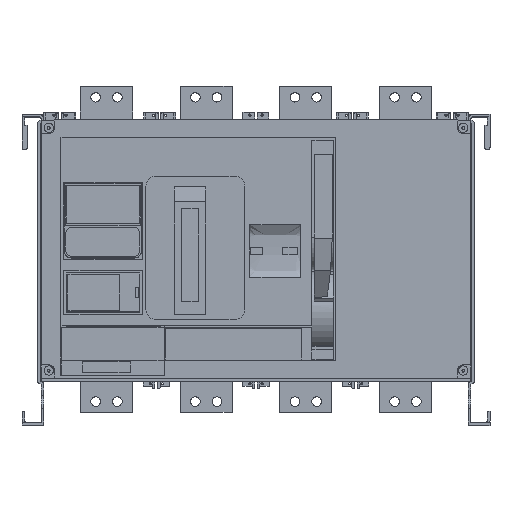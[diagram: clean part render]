
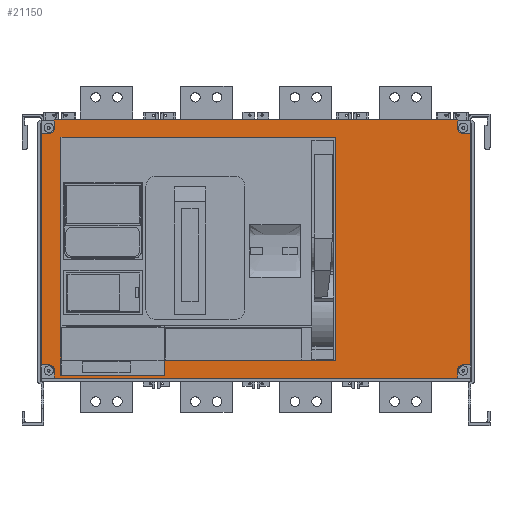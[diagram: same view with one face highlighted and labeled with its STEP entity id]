
A CAD part, top view. The second image highlights one B-rep face of the part: STEP entity #21150.
In plain terms, the highlighted planar face has unit normal (0, 0, 1).
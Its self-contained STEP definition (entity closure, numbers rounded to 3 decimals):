
#348=DIRECTION('',(0.,-1.,0.));
#349=VECTOR('',#348,267.);
#350=CARTESIAN_POINT('',(22.,336.5,356.));
#351=LINE('',#350,#349);
#404=DIRECTION('',(0.,1.,0.));
#405=VECTOR('',#404,267.);
#406=CARTESIAN_POINT('',(518.,69.5,356.));
#407=LINE('',#406,#405);
#436=DIRECTION('',(1.,0.,0.));
#437=VECTOR('',#436,465.);
#438=CARTESIAN_POINT('',(37.5,54.,356.));
#439=LINE('',#438,#437);
#483=DIRECTION('',(1.,0.,0.));
#484=VECTOR('',#483,9.);
#485=CARTESIAN_POINT('',(22.,69.5,356.));
#486=LINE('',#485,#484);
#491=CARTESIAN_POINT('',(31.,343.,356.));
#492=DIRECTION('',(0.,0.,1.));
#493=DIRECTION('',(0.,-1.,0.));
#494=AXIS2_PLACEMENT_3D('',#491,#492,#493);
#496=DIRECTION('',(0.,-1.,0.));
#497=VECTOR('',#496,9.);
#498=CARTESIAN_POINT('',(502.5,352.,356.));
#499=LINE('',#498,#497);
#500=CARTESIAN_POINT('',(509.,343.,356.));
#501=DIRECTION('',(0.,0.,1.));
#502=DIRECTION('',(-1.,0.,0.));
#503=AXIS2_PLACEMENT_3D('',#500,#501,#502);
#505=DIRECTION('',(-1.,0.,0.));
#506=VECTOR('',#505,9.);
#507=CARTESIAN_POINT('',(518.,69.5,356.));
#508=LINE('',#507,#506);
#509=CARTESIAN_POINT('',(509.,63.,356.));
#510=DIRECTION('',(0.,0.,1.));
#511=DIRECTION('',(0.,1.,0.));
#512=AXIS2_PLACEMENT_3D('',#509,#510,#511);
#514=DIRECTION('',(0.,1.,0.));
#515=VECTOR('',#514,9.);
#516=CARTESIAN_POINT('',(37.5,54.,356.));
#517=LINE('',#516,#515);
#518=CARTESIAN_POINT('',(31.,63.,356.));
#519=DIRECTION('',(0.,0.,1.));
#520=DIRECTION('',(1.,0.,0.));
#521=AXIS2_PLACEMENT_3D('',#518,#519,#520);
#523=DIRECTION('',(1.,0.,0.));
#524=VECTOR('',#523,9.);
#525=CARTESIAN_POINT('',(22.,336.5,356.));
#526=LINE('',#525,#524);
#527=DIRECTION('',(1.,0.,0.));
#528=VECTOR('',#527,197.024);
#529=CARTESIAN_POINT('',(164.727,74.209,356.));
#530=LINE('',#529,#528);
#531=DIRECTION('',(0.,1.,0.));
#532=VECTOR('',#531,40.54);
#533=CARTESIAN_POINT('',(361.751,74.209,356.));
#534=LINE('',#533,#532);
#535=DIRECTION('',(1.,0.,0.));
#536=VECTOR('',#535,0.209);
#537=CARTESIAN_POINT('',(361.751,114.75,356.));
#538=LINE('',#537,#536);
#539=DIRECTION('',(0.,1.,0.));
#540=VECTOR('',#539,217.25);
#541=CARTESIAN_POINT('',(361.96,114.75,356.));
#542=LINE('',#541,#540);
#543=DIRECTION('',(-1.,0.,0.));
#544=VECTOR('',#543,316.96);
#545=CARTESIAN_POINT('',(361.96,332.,356.));
#546=LINE('',#545,#544);
#547=DIRECTION('',(0.,-1.,0.));
#548=VECTOR('',#547,217.25);
#549=CARTESIAN_POINT('',(45.,332.,356.));
#550=LINE('',#549,#548);
#551=DIRECTION('',(0.,-1.,0.));
#552=VECTOR('',#551,57.24);
#553=CARTESIAN_POINT('',(45.,114.75,356.));
#554=LINE('',#553,#552);
#555=DIRECTION('',(1.,0.,0.));
#556=VECTOR('',#555,119.727);
#557=CARTESIAN_POINT('',(45.,57.51,356.));
#558=LINE('',#557,#556);
#559=DIRECTION('',(0.,1.,0.));
#560=VECTOR('',#559,16.7);
#561=CARTESIAN_POINT('',(164.727,57.51,356.));
#562=LINE('',#561,#560);
#598=DIRECTION('',(-1.,0.,0.));
#599=VECTOR('',#598,465.);
#600=CARTESIAN_POINT('',(502.5,352.,356.));
#601=LINE('',#600,#599);
#629=DIRECTION('',(-1.,0.,0.));
#630=VECTOR('',#629,9.);
#631=CARTESIAN_POINT('',(518.,336.5,356.));
#632=LINE('',#631,#630);
#955=DIRECTION('',(0.,-1.,0.));
#956=VECTOR('',#955,9.);
#957=CARTESIAN_POINT('',(37.5,352.,356.));
#958=LINE('',#957,#956);
#1288=DIRECTION('',(0.,1.,0.));
#1289=VECTOR('',#1288,9.);
#1290=CARTESIAN_POINT('',(502.5,54.,356.));
#1291=LINE('',#1290,#1289);
#15948=CARTESIAN_POINT('',(518.,69.5,356.));
#15949=VERTEX_POINT('',#15948);
#15950=CARTESIAN_POINT('',(518.,336.5,356.));
#15951=VERTEX_POINT('',#15950);
#15982=CARTESIAN_POINT('',(37.5,54.,356.));
#15983=VERTEX_POINT('',#15982);
#15984=CARTESIAN_POINT('',(502.5,54.,356.));
#15985=VERTEX_POINT('',#15984);
#16090=CARTESIAN_POINT('',(164.727,74.209,356.));
#16091=VERTEX_POINT('',#16090);
#16092=CARTESIAN_POINT('',(164.727,57.51,356.));
#16093=VERTEX_POINT('',#16092);
#16228=CARTESIAN_POINT('',(45.,114.75,356.));
#16229=VERTEX_POINT('',#16228);
#16236=CARTESIAN_POINT('',(45.,57.51,356.));
#16237=VERTEX_POINT('',#16236);
#16458=CARTESIAN_POINT('',(31.,336.5,356.));
#16459=CARTESIAN_POINT('',(37.5,343.,356.));
#16460=VERTEX_POINT('',#16458);
#16461=VERTEX_POINT('',#16459);
#16462=CARTESIAN_POINT('',(37.5,352.,356.));
#16463=VERTEX_POINT('',#16462);
#16464=CARTESIAN_POINT('',(502.5,352.,356.));
#16465=VERTEX_POINT('',#16464);
#16466=CARTESIAN_POINT('',(502.5,343.,356.));
#16467=VERTEX_POINT('',#16466);
#16468=CARTESIAN_POINT('',(509.,336.5,356.));
#16469=VERTEX_POINT('',#16468);
#16470=CARTESIAN_POINT('',(509.,69.5,356.));
#16471=VERTEX_POINT('',#16470);
#16472=CARTESIAN_POINT('',(502.5,63.,356.));
#16473=VERTEX_POINT('',#16472);
#16474=CARTESIAN_POINT('',(37.5,63.,356.));
#16475=VERTEX_POINT('',#16474);
#16476=CARTESIAN_POINT('',(31.,69.5,356.));
#16477=VERTEX_POINT('',#16476);
#16478=CARTESIAN_POINT('',(22.,69.5,356.));
#16479=VERTEX_POINT('',#16478);
#16480=CARTESIAN_POINT('',(22.,336.5,356.));
#16481=VERTEX_POINT('',#16480);
#16482=CARTESIAN_POINT('',(361.751,74.209,356.));
#16483=VERTEX_POINT('',#16482);
#16484=CARTESIAN_POINT('',(361.751,114.75,356.));
#16485=VERTEX_POINT('',#16484);
#16486=CARTESIAN_POINT('',(361.96,114.75,356.));
#16487=VERTEX_POINT('',#16486);
#16488=CARTESIAN_POINT('',(361.96,332.,356.));
#16489=VERTEX_POINT('',#16488);
#16490=CARTESIAN_POINT('',(45.,332.,356.));
#16491=VERTEX_POINT('',#16490);
#21095=CARTESIAN_POINT('',(22.,352.,356.));
#21096=DIRECTION('',(0.,0.,1.));
#21097=DIRECTION('',(1.,0.,0.));
#21098=AXIS2_PLACEMENT_3D('',#21095,#21096,#21097);
#21099=PLANE('',#21098);
#21101=ORIENTED_EDGE('',*,*,#21100,.T.);
#21103=ORIENTED_EDGE('',*,*,#21102,.F.);
#21105=ORIENTED_EDGE('',*,*,#21104,.F.);
#21107=ORIENTED_EDGE('',*,*,#21106,.T.);
#21109=ORIENTED_EDGE('',*,*,#21108,.T.);
#21111=ORIENTED_EDGE('',*,*,#21110,.F.);
#21112=ORIENTED_EDGE('',*,*,#20958,.F.);
#21114=ORIENTED_EDGE('',*,*,#21113,.T.);
#21116=ORIENTED_EDGE('',*,*,#21115,.T.);
#21118=ORIENTED_EDGE('',*,*,#21117,.F.);
#21119=ORIENTED_EDGE('',*,*,#21017,.F.);
#21121=ORIENTED_EDGE('',*,*,#21120,.T.);
#21123=ORIENTED_EDGE('',*,*,#21122,.T.);
#21124=ORIENTED_EDGE('',*,*,#21079,.F.);
#21125=ORIENTED_EDGE('',*,*,#20871,.F.);
#21127=ORIENTED_EDGE('',*,*,#21126,.T.);
#21128=EDGE_LOOP('',(#21101,#21103,#21105,#21107,#21109,#21111,#21112,#21114,
#21116,#21118,#21119,#21121,#21123,#21124,#21125,#21127));
#21129=FACE_OUTER_BOUND('',#21128,.F.);
#21131=ORIENTED_EDGE('',*,*,#21130,.T.);
#21133=ORIENTED_EDGE('',*,*,#21132,.T.);
#21135=ORIENTED_EDGE('',*,*,#21134,.T.);
#21137=ORIENTED_EDGE('',*,*,#21136,.T.);
#21139=ORIENTED_EDGE('',*,*,#21138,.T.);
#21141=ORIENTED_EDGE('',*,*,#21140,.T.);
#21143=ORIENTED_EDGE('',*,*,#21142,.T.);
#21145=ORIENTED_EDGE('',*,*,#21144,.T.);
#21147=ORIENTED_EDGE('',*,*,#21146,.T.);
#21148=EDGE_LOOP('',(#21131,#21133,#21135,#21137,#21139,#21141,#21143,#21145,
#21147));
#21149=FACE_BOUND('',#21148,.F.);
#495=CIRCLE('',#494,6.5);
#504=CIRCLE('',#503,6.5);
#513=CIRCLE('',#512,6.5);
#522=CIRCLE('',#521,6.5);
#20871=EDGE_CURVE('',#16481,#16479,#351,.T.);
#20958=EDGE_CURVE('',#15949,#15951,#407,.T.);
#21017=EDGE_CURVE('',#15983,#15985,#439,.T.);
#21079=EDGE_CURVE('',#16479,#16477,#486,.T.);
#21100=EDGE_CURVE('',#16460,#16461,#495,.T.);
#21102=EDGE_CURVE('',#16463,#16461,#958,.T.);
#21104=EDGE_CURVE('',#16465,#16463,#601,.T.);
#21106=EDGE_CURVE('',#16465,#16467,#499,.T.);
#21108=EDGE_CURVE('',#16467,#16469,#504,.T.);
#21110=EDGE_CURVE('',#15951,#16469,#632,.T.);
#21113=EDGE_CURVE('',#15949,#16471,#508,.T.);
#21115=EDGE_CURVE('',#16471,#16473,#513,.T.);
#21117=EDGE_CURVE('',#15985,#16473,#1291,.T.);
#21120=EDGE_CURVE('',#15983,#16475,#517,.T.);
#21122=EDGE_CURVE('',#16475,#16477,#522,.T.);
#21126=EDGE_CURVE('',#16481,#16460,#526,.T.);
#21130=EDGE_CURVE('',#16091,#16483,#530,.T.);
#21132=EDGE_CURVE('',#16483,#16485,#534,.T.);
#21134=EDGE_CURVE('',#16485,#16487,#538,.T.);
#21136=EDGE_CURVE('',#16487,#16489,#542,.T.);
#21138=EDGE_CURVE('',#16489,#16491,#546,.T.);
#21140=EDGE_CURVE('',#16491,#16229,#550,.T.);
#21142=EDGE_CURVE('',#16229,#16237,#554,.T.);
#21144=EDGE_CURVE('',#16237,#16093,#558,.T.);
#21146=EDGE_CURVE('',#16093,#16091,#562,.T.);
#21150=ADVANCED_FACE('',(#21129,#21149),#21099,.T.);
